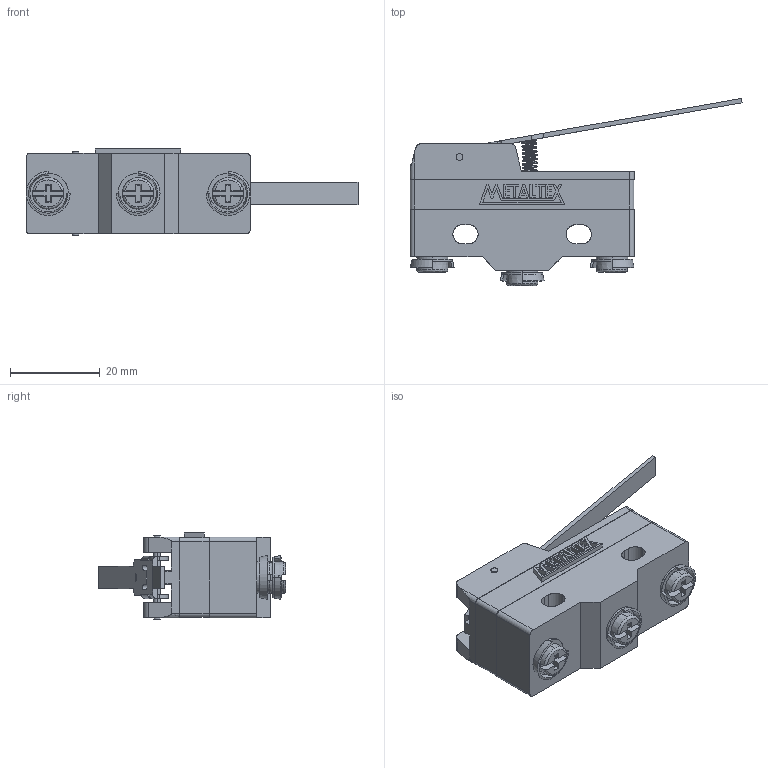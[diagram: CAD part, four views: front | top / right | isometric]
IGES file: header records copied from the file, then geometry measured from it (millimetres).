
Start section: SolidWorks IGES file using analytic representation for surfaces
Global section: file name: D:\X - Arquivos\PROEX\Empresas\P11 - METALTEX\01 - Produtos\IGES\4ª remessa\5ª etapa\FM1701.IGS; native system: SolidWorks 2012; preprocessor: SolidWorks 2012; author: Usuario; date: 180601.134859; units: millimetre
Bounding box: 73.86 x 41.63 x 19.15 mm (x, y, z)
Surface area: 8404.2 mm2 (no closed solid volume)
Topology: 0 solids, 0 shells, 338 faces, 3291 edges, 3291 vertices
Faces by surface type: bspline 247, revolution 91
